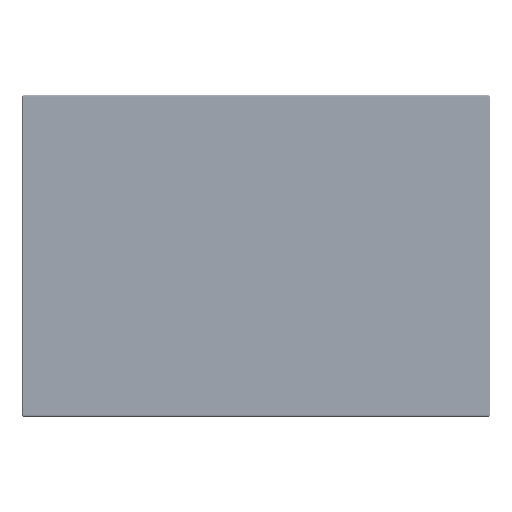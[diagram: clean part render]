
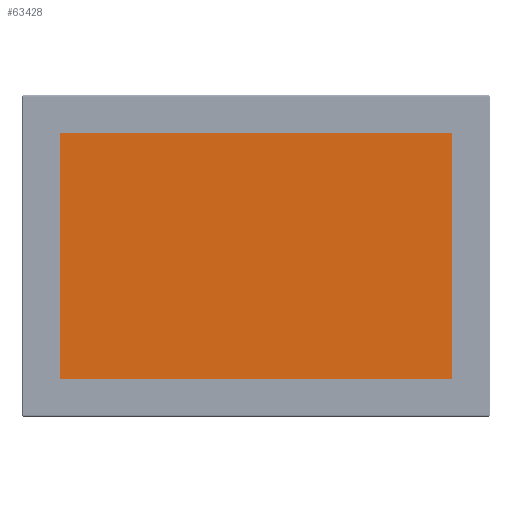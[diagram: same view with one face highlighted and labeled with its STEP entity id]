
A CAD part, top view. The second image highlights one B-rep face of the part: STEP entity #63428.
In plain terms, the highlighted planar face has unit normal (0, 0, 1).
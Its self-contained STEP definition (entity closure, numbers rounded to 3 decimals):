
#5825 = CARTESIAN_POINT ( 'NONE',  ( 131.16, -82.2, 0. ) ) ;
#15948 = VECTOR ( 'NONE', #478201, 1000. ) ;
#42054 = VERTEX_POINT ( 'NONE', #94235 ) ;
#53656 = CARTESIAN_POINT ( 'NONE',  ( 131.16, -82.2, 0. ) ) ;
#63428 = ADVANCED_FACE ( 'NONE', ( #663884 ), #627093, .T. ) ;
#79953 = EDGE_CURVE ( 'NONE', #492519, #42054, #485865, .T. ) ;
#92865 = ORIENTED_EDGE ( 'NONE', *, *, #302783, .T. ) ;
#94235 = CARTESIAN_POINT ( 'NONE',  ( 131.16, 82.2, 0. ) ) ;
#106327 = CARTESIAN_POINT ( 'NONE',  ( -131.16, -82.2, 0. ) ) ;
#127454 = CARTESIAN_POINT ( 'NONE',  ( -131.16, 82.2, 0. ) ) ;
#132075 = DIRECTION ( 'NONE',  ( 0., -1., 0. ) ) ;
#133736 = AXIS2_PLACEMENT_3D ( 'NONE', #137551, #196343, #410423 ) ;
#137551 = CARTESIAN_POINT ( 'NONE',  ( 0., 0., 0. ) ) ;
#196343 = DIRECTION ( 'NONE',  ( 0., 0., 1. ) ) ;
#198870 = ORIENTED_EDGE ( 'NONE', *, *, #79953, .T. ) ;
#237990 = EDGE_CURVE ( 'NONE', #42054, #303300, #604796, .T. ) ;
#276354 = EDGE_CURVE ( 'NONE', #423570, #492519, #378141, .T. ) ;
#302783 = EDGE_CURVE ( 'NONE', #303300, #423570, #527584, .T. ) ;
#303300 = VERTEX_POINT ( 'NONE', #599818 ) ;
#314460 = CARTESIAN_POINT ( 'NONE',  ( -131.16, -82.2, 0. ) ) ;
#376516 = CARTESIAN_POINT ( 'NONE',  ( 131.16, 82.2, 0. ) ) ;
#378141 = LINE ( 'NONE', #106327, #15948 ) ;
#378653 = DIRECTION ( 'NONE',  ( 0., 1., 0. ) ) ;
#378861 = DIRECTION ( 'NONE',  ( -1., 0., 0. ) ) ;
#394026 = VECTOR ( 'NONE', #378861, 1000. ) ;
#410423 = DIRECTION ( 'NONE',  ( 1., 0., 0. ) ) ;
#423570 = VERTEX_POINT ( 'NONE', #314460 ) ;
#478201 = DIRECTION ( 'NONE',  ( 1., 0., 0. ) ) ;
#485865 = LINE ( 'NONE', #53656, #511539 ) ;
#492519 = VERTEX_POINT ( 'NONE', #5825 ) ;
#511539 = VECTOR ( 'NONE', #378653, 1000. ) ;
#527584 = LINE ( 'NONE', #127454, #654192 ) ;
#552312 = EDGE_LOOP ( 'NONE', ( #688119, #198870, #696740, #92865 ) ) ;
#599818 = CARTESIAN_POINT ( 'NONE',  ( -131.16, 82.2, 0. ) ) ;
#604796 = LINE ( 'NONE', #376516, #394026 ) ;
#627093 = PLANE ( 'NONE',  #133736 ) ;
#654192 = VECTOR ( 'NONE', #132075, 1000. ) ;
#663884 = FACE_OUTER_BOUND ( 'NONE', #552312, .T. ) ;
#688119 = ORIENTED_EDGE ( 'NONE', *, *, #276354, .T. ) ;
#696740 = ORIENTED_EDGE ( 'NONE', *, *, #237990, .T. ) ;
